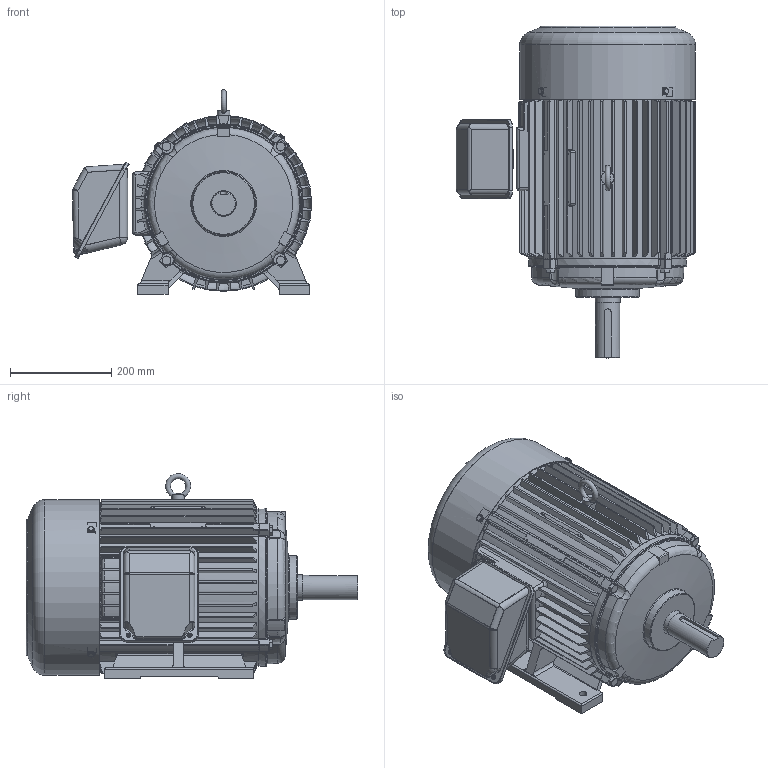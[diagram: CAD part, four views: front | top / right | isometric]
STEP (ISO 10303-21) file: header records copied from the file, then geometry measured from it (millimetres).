
FILE_DESCRIPTION(/* description */ ('Unknown'),/* implementation_level */ '2;1');
FILE_NAME(/* name */ '1-SMA-31987_외형도(300DIA)',/* time_stamp */ '2026-07-24T08:21:30+09:00',/* author */ ('Unknown'),/* organization */ ('Unknown'),/* preprocessor_version */ 'ST-DEVELOPER v16',/* originating_system */ 'DEX',/* authorisation */ $);
FILE_SCHEMA (('AUTOMOTIVE_DESIGN {1 0 10303 214 3 1 1}'));
Products named in the file (15): 1-SMA-31987_¿ÜÇüµµ(300DIxÆÖÄ³(; 2-SMA-30962_FRAME(300DIA); 3-SMA-30956_擅粽塭鰍(300D; 4-SMA-30957_µÚºê¶óÄÏ(300D´¾|·Ï(; 5-SMA-33423_SHAFT(300DIA); 6-SMA-31246_FAN(300DIA); 7-SMA-30959_FAN COVER(300DIA); 8-SMA-33052_T-BOX(鼻); 9-SMA-33053_T-BOX(ж); 幫陝 M6x1x10; 幫陝獐お M10x1.5x; ｵﾕｱﾙ ｽﾊﾀﾚ M5x0.8xｭ; 6309ZZ; I獐お M12x1.75x22; 6310ZZ
Assembly tree (25 placements, depth 2):
  1-SMA-31987_¿ÜÇüµµ(300DIxÆÖÄ³(
    2-SMA-30962_FRAME(300DIA)
    3-SMA-30956_擅粽塭鰍(300D
    4-SMA-30957_µÚºê¶óÄÏ(300D´¾|·Ï(
    5-SMA-33423_SHAFT(300DIA)
    6-SMA-31246_FAN(300DIA)
    7-SMA-30959_FAN COVER(300DIA)
    8-SMA-33052_T-BOX(鼻)
    9-SMA-33053_T-BOX(ж)
    幫陝 M6x1x10  x4
    幫陝獐お M10x1.5x  x8
    ｵﾕｱﾙ ｽﾊﾀﾚ M5x0.8xｭ  x2
    6309ZZ
    I獐お M12x1.75x22
    6310ZZ
Bounding box: 473.51 x 656.99 x 405.5 mm (x, y, z)
Volume: 8651246.6 mm3; surface area: 2823172.9 mm2
Topology: 47 solids, 47 shells, 2195 faces, 5665 edges, 3550 vertices
Faces by surface type: plane 710, cylinder 570, cone 345, bspline 308, torus 222, sphere 40
Full cylindrical faces by diameter (mm): 2.2 x4, 4.134 x2, 4.917 x2, 5 x2, 6 x10, 6.647 x4, 7 x2, 8 x2, 8.376 x16, 10 x16, 10.106 x1, 12 x10, 14 x4, 15 x4, 25 x1, 40 x2, 44.7 x1, 45 x2, 45.8 x1, 48 x1, 49.8 x1, 50 x3, 50.8 x1, 55.1 x1, 58 x1, 59 x1, 60.714 x2, 61.114 x2, 62 x1, 64 x2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
Entity records: 94121 total; most frequent: CARTESIAN_POINT 44198, ORIENTED_EDGE 9720, DIRECTION 8507, EDGE_CURVE 4860, AXIS2_PLACEMENT_3D 3494, VERTEX_POINT 3192, FACE_BOUND 2370, EDGE_LOOP 2341
